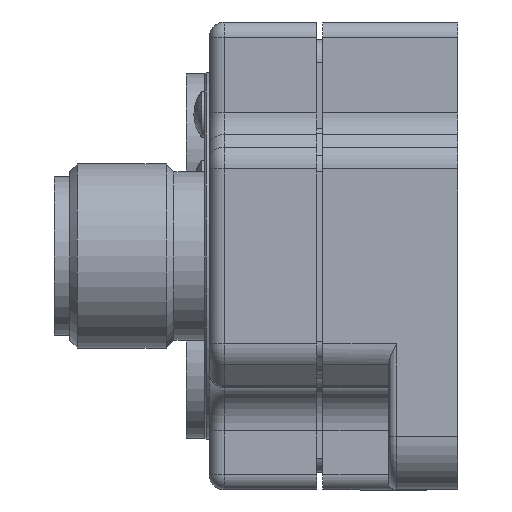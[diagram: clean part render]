
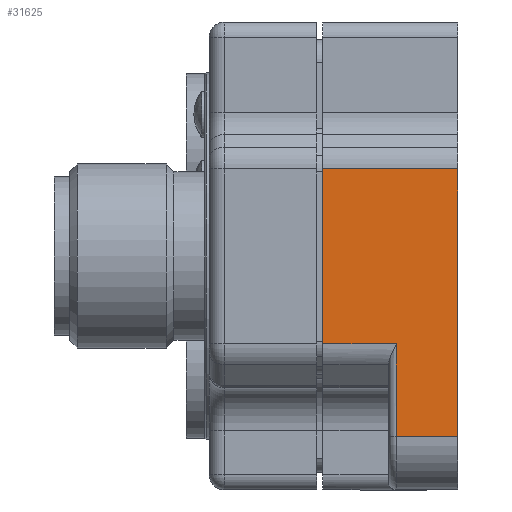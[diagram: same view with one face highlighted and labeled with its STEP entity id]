
A CAD part, left-side view. The second image highlights one B-rep face of the part: STEP entity #31625.
In plain terms, the highlighted planar face has unit normal (-1, 0, 0).
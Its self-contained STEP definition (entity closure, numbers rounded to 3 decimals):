
#1129 = EDGE_CURVE ( 'NONE', #29859, #19828, #18662, .T. ) ;
#1679 = DIRECTION ( 'NONE',  ( 0., 0., -1. ) ) ;
#2198 = PLANE ( 'NONE',  #14233 ) ;
#2323 = EDGE_CURVE ( 'NONE', #6281, #32839, #12201, .T. ) ;
#2786 = EDGE_CURVE ( 'NONE', #19828, #11021, #19379, .T. ) ;
#3005 = EDGE_CURVE ( 'NONE', #27494, #6281, #4473, .T. ) ;
#4358 = VECTOR ( 'NONE', #11524, 1000. ) ;
#4473 = LINE ( 'NONE', #8502, #26063 ) ;
#4934 = CARTESIAN_POINT ( 'NONE',  ( -0.75, 0.108, -20.73 ) ) ;
#5145 = CARTESIAN_POINT ( 'NONE',  ( -0.75, 0.108, -26.75 ) ) ;
#5162 = DIRECTION ( 'NONE',  ( 0., -1., 0. ) ) ;
#5603 = CARTESIAN_POINT ( 'NONE',  ( -0.75, 0.108, -30. ) ) ;
#5777 = CARTESIAN_POINT ( 'NONE',  ( -0.75, 0.108, -9.328 ) ) ;
#6281 = VERTEX_POINT ( 'NONE', #5145 ) ;
#8333 = DIRECTION ( 'NONE',  ( -1., 0., 0. ) ) ;
#8502 = CARTESIAN_POINT ( 'NONE',  ( -0.75, 0.108, -3.6 ) ) ;
#8675 = VECTOR ( 'NONE', #10803, 1000. ) ;
#9990 = CARTESIAN_POINT ( 'NONE',  ( -0.75, 8.908, -9.328 ) ) ;
#10803 = DIRECTION ( 'NONE',  ( 0., 1., 0. ) ) ;
#11021 = VERTEX_POINT ( 'NONE', #27621 ) ;
#11433 = VECTOR ( 'NONE', #21016, 1000. ) ;
#11524 = DIRECTION ( 'NONE',  ( 0., 0., -1. ) ) ;
#11822 = ORIENTED_EDGE ( 'NONE', *, *, #21658, .T. ) ;
#12150 = EDGE_CURVE ( 'NONE', #11021, #32839, #31425, .T. ) ;
#12201 = LINE ( 'NONE', #14319, #31160 ) ;
#13201 = ORIENTED_EDGE ( 'NONE', *, *, #1129, .T. ) ;
#13294 = CARTESIAN_POINT ( 'NONE',  ( -0.75, 8.908, -20.73 ) ) ;
#14202 = DIRECTION ( 'NONE',  ( 0., 1., 0. ) ) ;
#14233 = AXIS2_PLACEMENT_3D ( 'NONE', #5603, #8333, #27262 ) ;
#14319 = CARTESIAN_POINT ( 'NONE',  ( -0.75, 20.38, -26.75 ) ) ;
#16890 = ORIENTED_EDGE ( 'NONE', *, *, #2786, .T. ) ;
#17644 = LINE ( 'NONE', #29678, #8675 ) ;
#18662 = LINE ( 'NONE', #18767, #11433 ) ;
#18767 = CARTESIAN_POINT ( 'NONE',  ( -0.75, 8.908, -30. ) ) ;
#19379 = LINE ( 'NONE', #4934, #31123 ) ;
#19828 = VERTEX_POINT ( 'NONE', #13294 ) ;
#20383 = FACE_OUTER_BOUND ( 'NONE', #30524, .T. ) ;
#21016 = DIRECTION ( 'NONE',  ( 0., 0., -1. ) ) ;
#21658 = EDGE_CURVE ( 'NONE', #27494, #29859, #17644, .T. ) ;
#23330 = ORIENTED_EDGE ( 'NONE', *, *, #3005, .F. ) ;
#24936 = CARTESIAN_POINT ( 'NONE',  ( -0.75, 4.108, -26.75 ) ) ;
#26063 = VECTOR ( 'NONE', #1679, 1000. ) ;
#27262 = DIRECTION ( 'NONE',  ( 0., 0., 1. ) ) ;
#27494 = VERTEX_POINT ( 'NONE', #5777 ) ;
#27621 = CARTESIAN_POINT ( 'NONE',  ( -0.75, 4.108, -20.73 ) ) ;
#28524 = ORIENTED_EDGE ( 'NONE', *, *, #12150, .T. ) ;
#29678 = CARTESIAN_POINT ( 'NONE',  ( -0.75, 0.108, -9.328 ) ) ;
#29800 = ORIENTED_EDGE ( 'NONE', *, *, #2323, .F. ) ;
#29859 = VERTEX_POINT ( 'NONE', #9990 ) ;
#30375 = CARTESIAN_POINT ( 'NONE',  ( -0.75, 4.108, -30. ) ) ;
#30524 = EDGE_LOOP ( 'NONE', ( #11822, #13201, #16890, #28524, #29800, #23330 ) ) ;
#31123 = VECTOR ( 'NONE', #5162, 1000. ) ;
#31160 = VECTOR ( 'NONE', #14202, 1000. ) ;
#31425 = LINE ( 'NONE', #30375, #4358 ) ;
#31625 = ADVANCED_FACE ( 'NONE', ( #20383 ), #2198, .T. ) ;
#32839 = VERTEX_POINT ( 'NONE', #24936 ) ;
